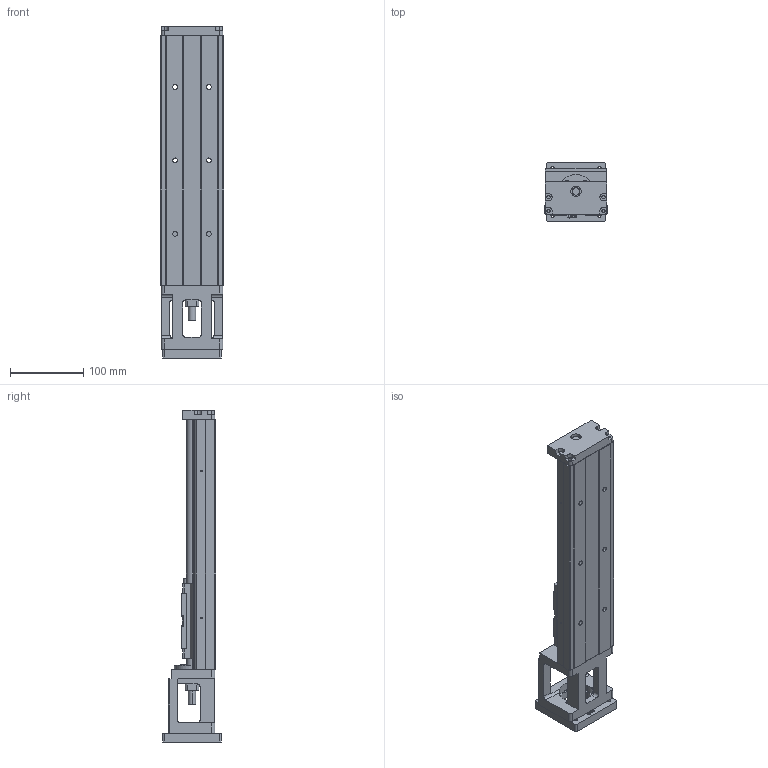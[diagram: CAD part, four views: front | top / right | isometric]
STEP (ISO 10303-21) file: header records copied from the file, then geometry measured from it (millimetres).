
FILE_DESCRIPTION (( 'STEP AP203' ), '1' );
FILE_NAME ('KH86D10C-340A1-F8-Z.STEP', '2024-01-09T06:38:16', ( '' ), ( '' ), 'SwSTEP 2.0', 'SolidWorks 2016', '' );
FILE_SCHEMA (( 'CONFIG_CONTROL_DESIGN' ));
Length unit declared in the file: millimetre
Products named in the file (12): 86賑輸; KH86-01-340; KH86-A1; KK86-03-F8; KH86-綴釱-05S_KK86-05-01; ヶ盓釱; KH86D10C-340A1-F8-Z
Assembly tree (6 placements, depth 3):
  86賑輸
  KH86-綴釱-05S_KK86-05-01
  ヶ盓釱
  KK86-03-F8
  KH86D10C-340A1-F8-Z
    KH86-01-340
    KH86-A1
      86賑輸
    KH86-綴釱-05S_KK86-05-01
    KK86-03-F8
    ヶ盓釱
Bounding box: 86 x 80 x 452 mm (x, y, z)
Volume: 972474.2 mm3; surface area: 213920.9 mm2
Topology: 6 solids, 7 shells, 742 faces, 2018 edges, 1311 vertices
Faces by surface type: plane 345, cylinder 209, bspline 146, cone 42
Entity records: 31357 total; most frequent: CARTESIAN_POINT 12346, ORIENTED_EDGE 3952, DIRECTION 3268, EDGE_CURVE 1976, VERTEX_POINT 1311, LINE 1238, VECTOR 1238, AXIS2_PLACEMENT_3D 1015
